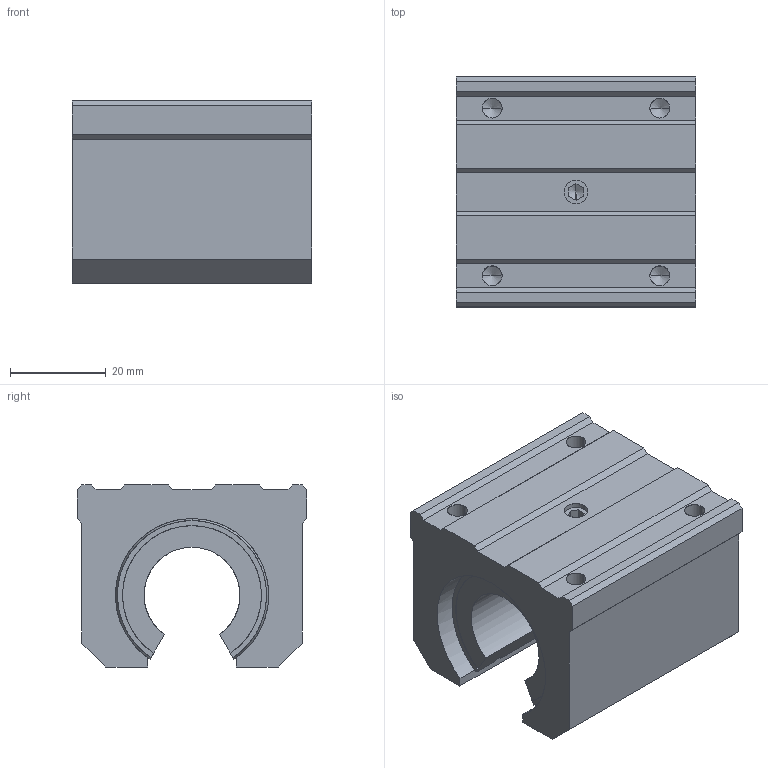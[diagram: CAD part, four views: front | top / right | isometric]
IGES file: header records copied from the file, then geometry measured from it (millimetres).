
Global section: file name: No Iges File Name specified; native system: AutoDesk Inventor R10; preprocessor: AutoDesk Inventor Iges Exporter R10; author: No Author specified; organization: No Organization specified; date: 20101221.091018; units: millimetre
Bounding box: 50 x 48 x 38 mm (x, y, z)
Surface area: 15104.9 mm2 (no closed solid volume)
Topology: 0 solids, 0 shells, 94 faces, 644 edges, 634 vertices
Faces by surface type: bspline 94
